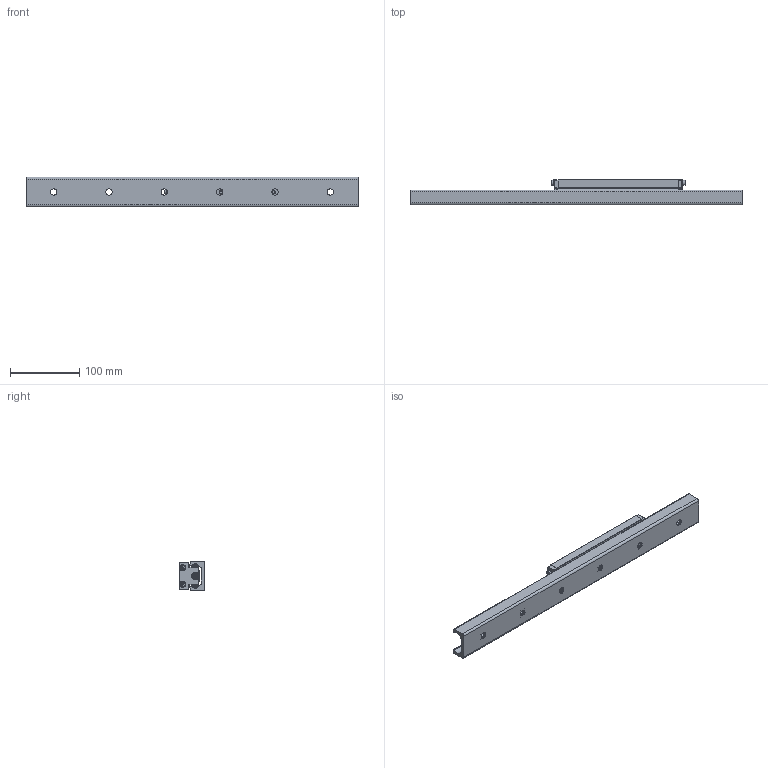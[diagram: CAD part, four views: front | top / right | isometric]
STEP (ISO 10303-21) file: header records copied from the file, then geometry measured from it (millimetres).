
FILE_DESCRIPTION(/* description */ ('STEP AP214'),/* implementation_level */ '2;1');
FILE_NAME(/* name */ 'AWG43RB1SS+480L(2000)',/* time_stamp */ '2024-10-17T13:39:56+02:00',/* author */ ('License CC BY-ND 4.0'),/* organization */ ('CADENAS'),/* preprocessor_version */ 'ST-DEVELOPER v19.3',/* originating_system */ 'PARTsolutions',/* authorisation */ ' ');
FILE_SCHEMA (('AUTOMOTIVE_DESIGN {1 0 10303 214 3 1 1}'));
Length unit declared in the file: millimetre
Products named in the file (5): AWG43RB1SS+480L(2000); AWG43RB1SS+480L A-M6F 200 0_rail; AWG43RB1SS+480L_carriage; AWG43RB_SSL_seal; AWG-RA_A-M6F_grease_nipple
Assembly tree (6 placements, depth 2):
  AWG43RB1SS+480L(2000)
    AWG43RB1SS+480L A-M6F 200 0_rail
    AWG43RB1SS+480L_carriage
    AWG43RB_SSL_seal  x2
    AWG-RA_A-M6F_grease_nipple  x2
Bounding box: 480 x 37 x 43 mm (x, y, z)
Volume: 337990.5 mm3; surface area: 132446.3 mm2
Topology: 6 solids, 14 shells, 989 faces, 2468 edges, 1585 vertices
Faces by surface type: plane 507, cylinder 320, cone 96, torus 54, sphere 8, bspline 4
Full cylindrical faces by diameter (mm): 2 x4, 3.7 x2, 4 x4, 4.2 x4, 4.92 x4, 5.19 x2, 6 x6, 6.5 x6, 6.6 x4, 6.647 x4, 7 x4, 9 x12, 9.9 x2, 10 x8, 11 x4, 13 x4, 14 x10, 16.5 x6
Entity records: 24334 total; most frequent: CARTESIAN_POINT 4603, DIRECTION 4167, ORIENTED_EDGE 3832, EDGE_CURVE 1916, AXIS2_PLACEMENT_3D 1569, VERTEX_POINT 1319, FACE_BOUND 1089, EDGE_LOOP 1083
